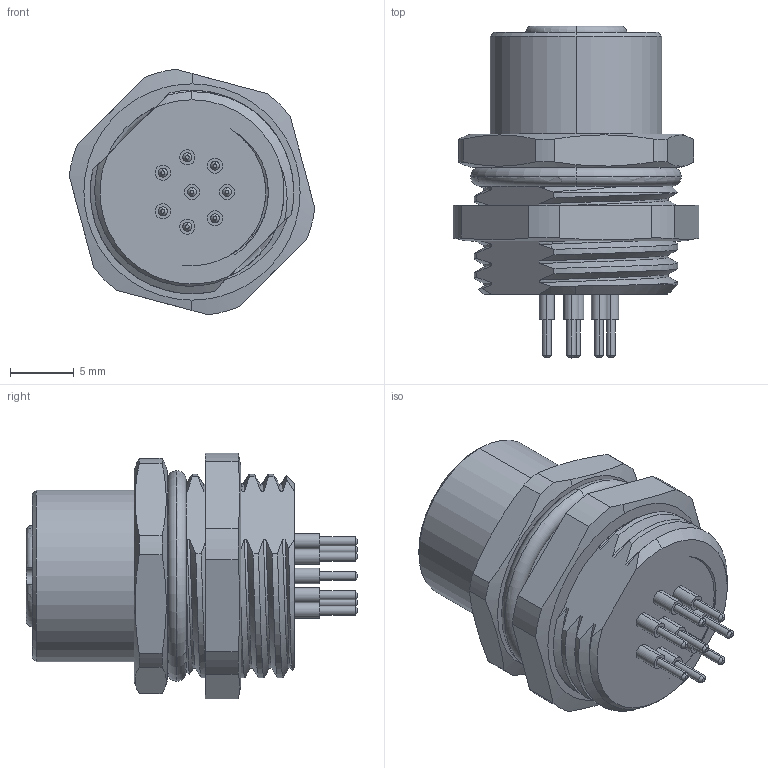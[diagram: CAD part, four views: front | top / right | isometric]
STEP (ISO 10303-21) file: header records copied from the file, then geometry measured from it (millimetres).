
FILE_DESCRIPTION (( 'STEP AP203' ), '1' );
FILE_NAME ('64SB01P.STEP', '2023-10-19T06:30:31', ( 'ADMIN' ), ( '' ), 'SwSTEP 2.0', 'SolidWorks 2016', '' );
FILE_SCHEMA (( 'CONFIG_CONTROL_DESIGN' ));
Length unit declared in the file: millimetre
Products named in the file (1): 64SB01P
Bounding box: 19.33 x 26.1 x 19.33 mm (x, y, z)
Volume: 3318.9 mm3; surface area: 3625.5 mm2
Topology: 1 solids, 18 shells, 393 faces, 952 edges, 625 vertices
Faces by surface type: cylinder 170, plane 97, cone 56, bspline 55, torus 15
Entity records: 23394 total; most frequent: CARTESIAN_POINT 14654, ORIENTED_EDGE 1904, DIRECTION 1605, EDGE_CURVE 952, AXIS2_PLACEMENT_3D 674, VERTEX_POINT 625, EDGE_LOOP 435, ADVANCED_FACE 393
